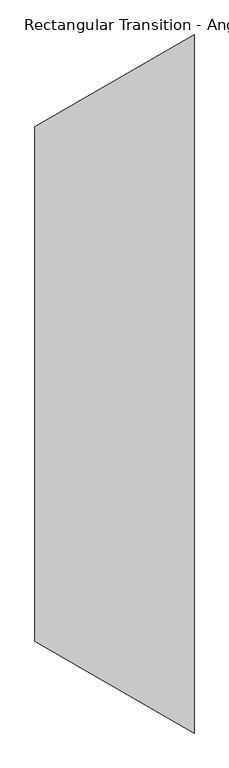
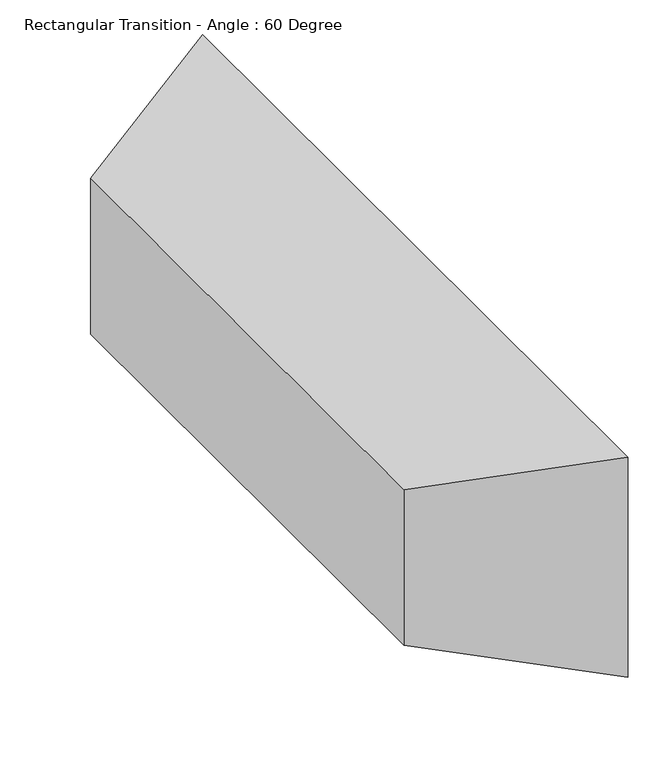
"""IFC4 building model written with IfcOpenShell, lengths in millimetres: duct fitting geometry, Rectangular Transition - Angle : 60 Degree."""

from ifc_helpers import new_model, si_unit, origin, place, context, project, spatial, faceted_brep, source, transform, mapped, element, save


def rectangular_transition_angle_60_degree_7abde47e(model_context):
    return source(origin(), model_context, "Body", "Brep", [
        faceted_brep([(439.9409051, -965.2, 304.8), (439.9409051, -965.2, -304.8), (439.9409051, 965.2, -304.8), (439.9409051, 965.2, 304.8), (0.0, -711.2, 215.9), (0.0, 711.2, 215.9), (0.0, 711.2, -215.9), (0.0, -711.2, -215.9)], [[[0, 1, 2, 3]], [[4, 5, 6, 7]], [[4, 7, 1, 0]], [[7, 6, 2, 1]], [[6, 5, 3, 2]], [[5, 4, 0, 3]]]),
    ])


if __name__ == "__main__":
    model = new_model("IFC4")
    model_context = context("Model", 3, world=origin())
    ifc_project = project(units=[si_unit("LENGTHUNIT", "METRE", prefix="MILLI")], contexts=[model_context])
    site = spatial("IfcSite", under=ifc_project)
    building = spatial("IfcBuilding", under=site)
    placement = place(None, origin())
    rectangular_transition_angle_60_degree_shape = rectangular_transition_angle_60_degree_7abde47e(model_context)
    element("IfcDuctFitting", 1, ObjectType="Rectangular Transition - Angle : 60 Degree", at=placement, inside=building, context=model_context, shape_type="MappedRepresentation", body=[
        mapped(rectangular_transition_angle_60_degree_shape, transform((0.0, 0.0, 0.0), x_axis=(1.0, 0.0, 0.0), y_axis=(0.0, 1.0, 0.0), z_axis=(0.0, 0.0, 1.0))),
    ])
    save(model, "model.ifc")
